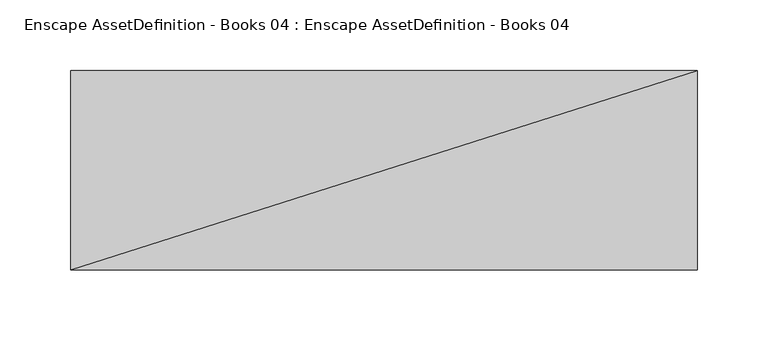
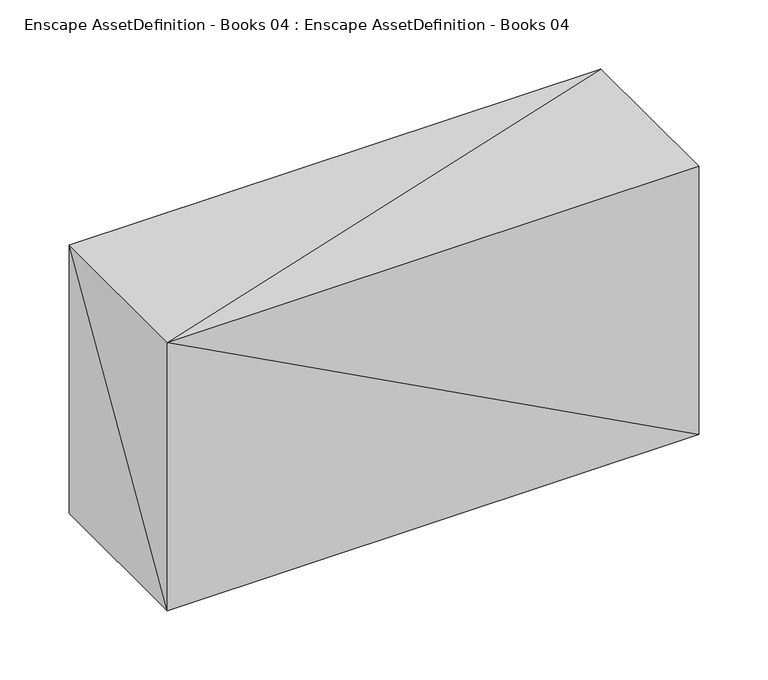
"""IFC4 building model written with IfcOpenShell, lengths in millimetres: geographic element geometry, Enscape AssetDefinition - Books 04 : Enscape AssetDefinition - Books 04."""

from ifc_helpers import new_model, si_unit, origin, place, context, project, spatial, faceted_brep, source, transform, mapped, element, save


def enscape_assetdefinition_books_04_enscape_assetdefinition_30a1759c(model_context):
    return source(origin(), model_context, "Body", "Brep", [
        faceted_brep([(221.7795849, 71.1992532, 236.900121), (-222.0156193, 71.1992532, 236.900121), (-222.0156193, -70.288159, 236.900121), (221.7795849, -70.288159, 236.900121), (221.7795849, 71.1992532, 0.0), (221.7795849, -70.288159, 0.0), (-222.0156193, -70.288159, 0.0), (-222.0156193, 71.1992532, 0.0)], [[[0, 1, 2]], [[2, 3, 0]], [[4, 5, 6]], [[6, 7, 4]], [[5, 3, 2]], [[2, 6, 5]], [[4, 0, 3]], [[3, 5, 4]], [[7, 1, 0]], [[0, 4, 7]], [[6, 2, 1]], [[1, 7, 6]]]),
    ])


if __name__ == "__main__":
    model = new_model("IFC4")
    model_context = context("Model", 3, world=origin())
    ifc_project = project(units=[si_unit("LENGTHUNIT", "METRE", prefix="MILLI")], contexts=[model_context])
    site = spatial("IfcSite", under=ifc_project)
    building = spatial("IfcBuilding", under=site)
    placement = place(None, origin())
    enscape_assetdefinition_books_04_enscape_assetdefinition_shape = enscape_assetdefinition_books_04_enscape_assetdefinition_30a1759c(model_context)
    element("IfcGeographicElement", 1, ObjectType="Enscape AssetDefinition - Books 04 : Enscape AssetDefinition - Books 04", at=placement, inside=building, context=model_context, shape_type="MappedRepresentation", body=[
        mapped(enscape_assetdefinition_books_04_enscape_assetdefinition_shape, transform((0.0, 0.0, 0.0), x_axis=(1.0, 0.0, 0.0), y_axis=(0.0, 1.0, 0.0), z_axis=(0.0, 0.0, 1.0))),
    ])
    save(model, "model.ifc")
